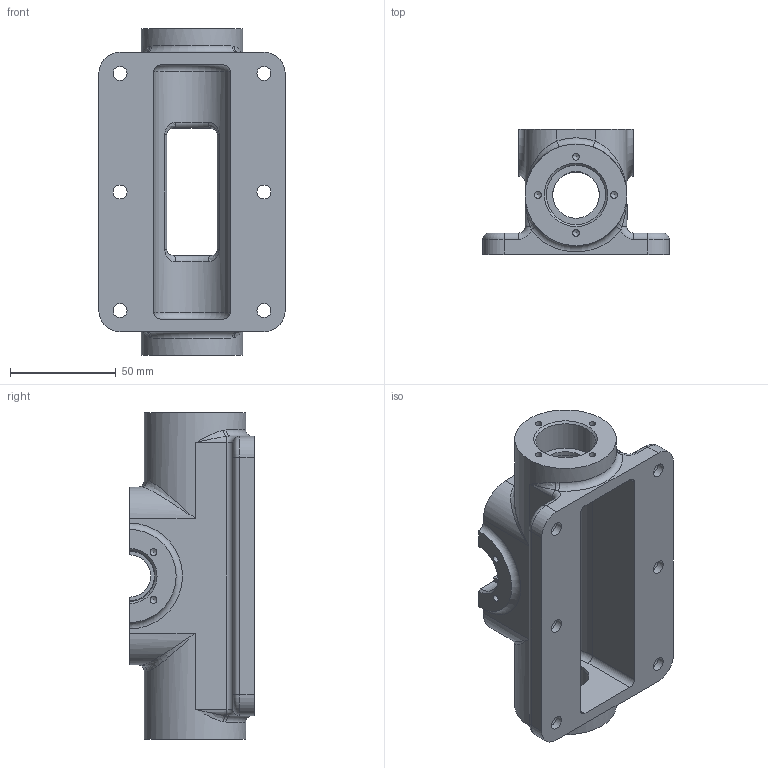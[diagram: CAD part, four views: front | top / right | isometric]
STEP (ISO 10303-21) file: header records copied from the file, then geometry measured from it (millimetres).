
FILE_DESCRIPTION(/* description */ (''),/* implementation_level */ '2;1');
FILE_NAME(/* name */ '',/* time_stamp */ '2024-07-29T13:46:29+09:00',/* author */ ('jhkim'),/* organization */ (''),/* preprocessor_version */ 'ST-DEVELOPER v20',/* originating_system */ 'Autodesk Inventor 2025',/* authorisation */ '');
FILE_SCHEMA (('AUTOMOTIVE_DESIGN { 1 0 10303 214 3 1 1 }'));
Length unit declared in the file: millimetre
Products named in the file (1): 본체
Bounding box: 88 x 59 x 154 mm (x, y, z)
Volume: 204278.3 mm3; surface area: 61226.1 mm2
Topology: 1 solids, 1 shells, 353 faces, 920 edges, 586 vertices
Faces by surface type: plane 152, bspline 92, cylinder 69, cone 20, torus 20
Full cylindrical faces by diameter (mm): 3.242 x16, 6.6 x6, 11 x6, 22 x2, 28 x2, 48 x2
Entity records: 11639 total; most frequent: CARTESIAN_POINT 3500, ORIENTED_EDGE 1792, DIRECTION 1418, EDGE_CURVE 896, VERTEX_POINT 586, LINE 530, VECTOR 530, AXIS2_PLACEMENT_3D 444
